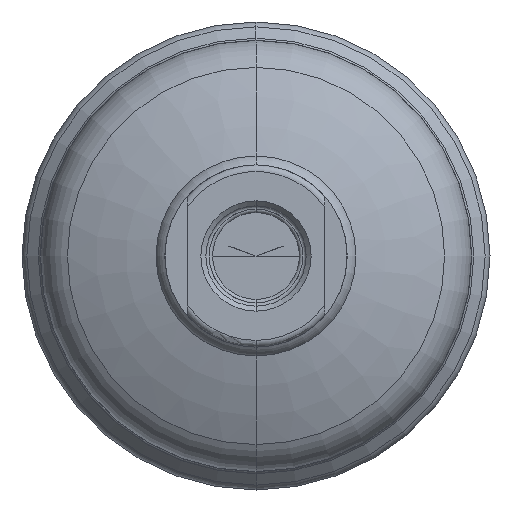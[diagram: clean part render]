
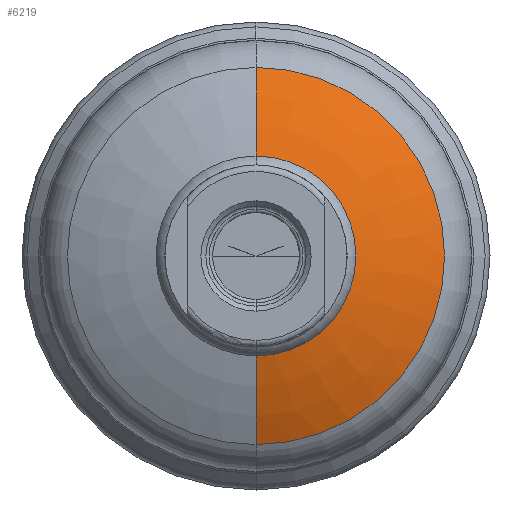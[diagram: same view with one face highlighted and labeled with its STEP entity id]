
A CAD part, front view. The second image highlights one B-rep face of the part: STEP entity #6219.
In plain terms, the highlighted toroidal (fillet/blend) face has major radius 1.468 mm and minor radius 130.997 mm.
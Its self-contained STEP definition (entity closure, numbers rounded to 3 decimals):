
#485 = EDGE_CURVE ( 'NONE', #12718, #8983, #14352, .T. ) ;
#2060 = VERTEX_POINT ( 'NONE', #5989 ) ;
#2877 = CARTESIAN_POINT ( 'NONE',  ( -6.527, -227.172, 32.558 ) ) ;
#2915 = DIRECTION ( 'NONE',  ( 1., 0., 0. ) ) ;
#3564 = DIRECTION ( 'NONE',  ( 0., 0., 1. ) ) ;
#3894 = ORIENTED_EDGE ( 'NONE', *, *, #10018, .T. ) ;
#4009 = CARTESIAN_POINT ( 'NONE',  ( -6.527, -354.358, 31.09 ) ) ;
#4011 = CARTESIAN_POINT ( 'NONE',  ( -6.527, -344.683, 31.09 ) ) ;
#4789 = CARTESIAN_POINT ( 'NONE',  ( -6.527, -227.172, 29.622 ) ) ;
#5199 = EDGE_CURVE ( 'NONE', #12718, #9953, #18064, .T. ) ;
#5836 = AXIS2_PLACEMENT_3D ( 'NONE', #4011, #17528, #17184 ) ;
#5989 = CARTESIAN_POINT ( 'NONE',  ( -6.527, -354.358, 60.994 ) ) ;
#6064 = DIRECTION ( 'NONE',  ( 0., 0., 1. ) ) ;
#6219 = ADVANCED_FACE ( 'NONE', ( #20334 ), #19786, .T. ) ;
#8983 = VERTEX_POINT ( 'NONE', #20263 ) ;
#9562 = DIRECTION ( 'NONE',  ( 0., 0., -1. ) ) ;
#9641 = ORIENTED_EDGE ( 'NONE', *, *, #5199, .T. ) ;
#9953 = VERTEX_POINT ( 'NONE', #16059 ) ;
#9978 = EDGE_CURVE ( 'NONE', #8983, #2060, #21610, .T. ) ;
#10018 = EDGE_CURVE ( 'NONE', #9953, #2060, #14894, .T. ) ;
#11245 = AXIS2_PLACEMENT_3D ( 'NONE', #15364, #18829, #3564 ) ;
#12043 = AXIS2_PLACEMENT_3D ( 'NONE', #4009, #20999, #12363 ) ;
#12363 = DIRECTION ( 'NONE',  ( 0., 0., -1. ) ) ;
#12718 = VERTEX_POINT ( 'NONE', #14366 ) ;
#13037 = ORIENTED_EDGE ( 'NONE', *, *, #485, .F. ) ;
#13429 = ORIENTED_EDGE ( 'NONE', *, *, #9978, .F. ) ;
#14320 = DIRECTION ( 'NONE',  ( -1., 0., 0. ) ) ;
#14352 = CIRCLE ( 'NONE', #16857, 130.997 ) ;
#14366 = CARTESIAN_POINT ( 'NONE',  ( -6.527, -344.683, -25.335 ) ) ;
#14894 = CIRCLE ( 'NONE', #19167, 130.997 ) ;
#15364 = CARTESIAN_POINT ( 'NONE',  ( -6.527, -227.172, 31.09 ) ) ;
#16059 = CARTESIAN_POINT ( 'NONE',  ( -6.527, -344.683, 87.515 ) ) ;
#16857 = AXIS2_PLACEMENT_3D ( 'NONE', #2877, #14320, #6064 ) ;
#17184 = DIRECTION ( 'NONE',  ( 0., 0., -1. ) ) ;
#17528 = DIRECTION ( 'NONE',  ( 0., -1., 0. ) ) ;
#18064 = CIRCLE ( 'NONE', #5836, 56.425 ) ;
#18829 = DIRECTION ( 'NONE',  ( 0., -1., 0. ) ) ;
#19167 = AXIS2_PLACEMENT_3D ( 'NONE', #4789, #2915, #9562 ) ;
#19786 = TOROIDAL_SURFACE ( 'NONE', #11245, -1.468, 130.997 ) ;
#20263 = CARTESIAN_POINT ( 'NONE',  ( -6.527, -354.358, 1.186 ) ) ;
#20334 = FACE_OUTER_BOUND ( 'NONE', #20540, .T. ) ;
#20540 = EDGE_LOOP ( 'NONE', ( #13037, #9641, #3894, #13429 ) ) ;
#20999 = DIRECTION ( 'NONE',  ( 0., -1., 0. ) ) ;
#21610 = CIRCLE ( 'NONE', #12043, 29.904 ) ;
